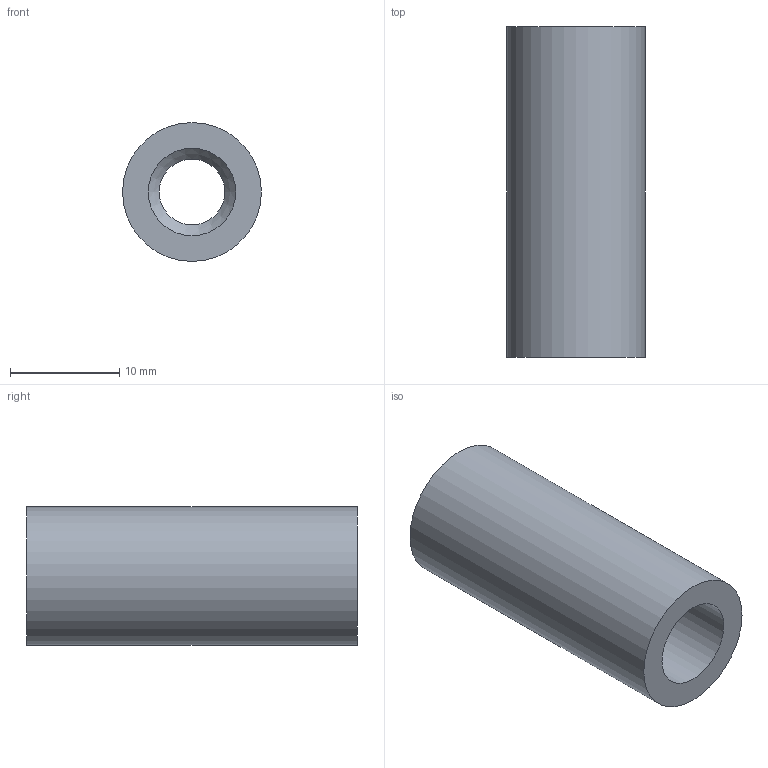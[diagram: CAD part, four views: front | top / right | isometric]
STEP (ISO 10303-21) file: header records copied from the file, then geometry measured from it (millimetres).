
FILE_DESCRIPTION(/* description */ (''),/* implementation_level */ '2;1');
FILE_NAME(/* name */ 'D:\~~GatCad\BWA - Ammo\BWA-Ammo V1.0\STEP\Primer Removal Cup.stp',/* time_stamp */ '2020-06-11T18:32:56-05:00',/* author */ ('johne'),/* organization */ (''),/* preprocessor_version */ 'ST-DEVELOPER v18',/* originating_system */ 'Autodesk Inventor 2020',/* authorisation */ '');
FILE_SCHEMA (('AUTOMOTIVE_DESIGN { 1 0 10303 214 3 1 1 }'));
Length unit declared in the file: millimetre
Products named in the file (1): Primer Removing Tool
Bounding box: 12.7 x 30.24 x 12.7 mm (x, y, z)
Volume: 2154.6 mm3; surface area: 2168.9 mm2
Topology: 1 solids, 1 shells, 8 faces, 17 edges, 12 vertices
Faces by surface type: cylinder 4, plane 3, cone 1
Full cylindrical faces by diameter (mm): 6 x1, 8 x1, 10.2 x1, 12.7 x1
Entity records: 274 total; most frequent: DIRECTION 47, CARTESIAN_POINT 38, ORIENTED_EDGE 34, AXIS2_PLACEMENT_3D 21, EDGE_CURVE 17, CIRCLE 12, VERTEX_POINT 12, EDGE_LOOP 11
